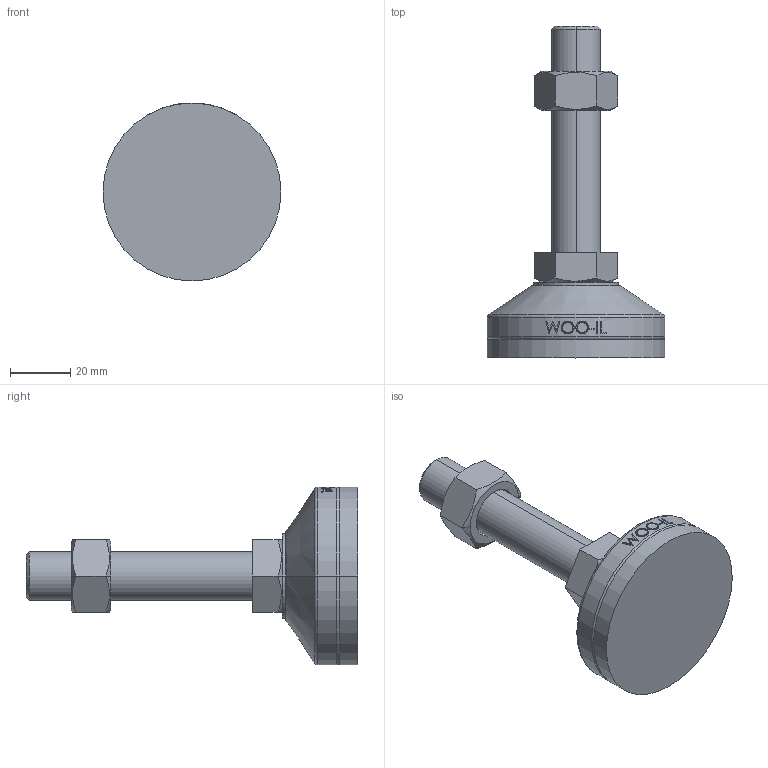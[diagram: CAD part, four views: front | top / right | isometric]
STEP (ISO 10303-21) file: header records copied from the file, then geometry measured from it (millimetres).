
FILE_DESCRIPTION (( 'STEP AP214' ), '1' );
FILE_NAME ('MFR59-M16-75.step', '2021-01-15T08:02:24', ( '' ), ( '' ), 'SwSTEP 2.0', 'SolidWorks 2019', '' );
FILE_SCHEMA (( 'AUTOMOTIVE_DESIGN' ));
Length unit declared in the file: millimetre
Products named in the file (2): MFR59-M16-75
Bounding box: 59 x 110 x 59 mm (x, y, z)
Volume: 78412.3 mm3; surface area: 21687.7 mm2
Topology: 4 solids, 4 shells, 103 faces, 235 edges, 150 vertices
Faces by surface type: plane 49, cylinder 18, bspline 16, cone 14, torus 6
Entity records: 4363 total; most frequent: CARTESIAN_POINT 2090, ORIENTED_EDGE 470, DIRECTION 417, EDGE_CURVE 235, AXIS2_PLACEMENT_3D 159, VERTEX_POINT 150, EDGE_LOOP 115, ADVANCED_FACE 103
